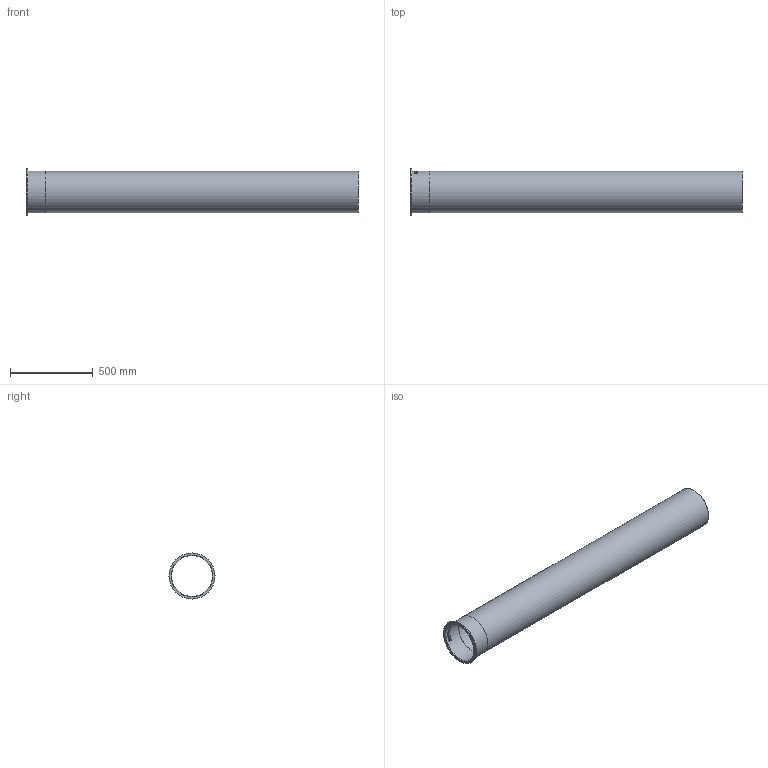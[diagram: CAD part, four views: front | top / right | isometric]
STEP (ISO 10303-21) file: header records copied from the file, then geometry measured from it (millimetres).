
FILE_DESCRIPTION((''),'2;1');
FILE_NAME('I:\WATTS\3D_CAD\3D_CAD_Models\Blucher_Drains\P_StraightPipe\WebsiteFiles\3D\STEP\P10-6.6-316.stp','2009-12-03T09:21:59',('menesek'),(''),'Autodesk Inventor 2010','Autodesk Inventor 2010','');
FILE_SCHEMA(('AUTOMOTIVE_DESIGN { 1 0 10303 214 1 1 1 1 }'));
Length unit declared in the file: inch
Products named in the file (1): P10-6.6-316
Bounding box: 2000 x 277.11 x 277.11 mm (x, y, z)
Volume: 2494399.5 mm3; surface area: 3147581.6 mm2
Topology: 1 solids, 1 shells, 109 faces, 285 edges, 190 vertices
Faces by surface type: plane 59, bspline 34, cylinder 16
Full cylindrical faces by diameter (mm): 246.888 x1, 249.936 x1, 250.952 x2, 277.114 x1
Entity records: 14221 total; most frequent: CARTESIAN_POINT 11843, ORIENTED_EDGE 548, DIRECTION 356, EDGE_CURVE 274, VERTEX_POINT 186, EDGE_LOOP 128, AXIS2_PLACEMENT_3D 120, VECTOR 116
